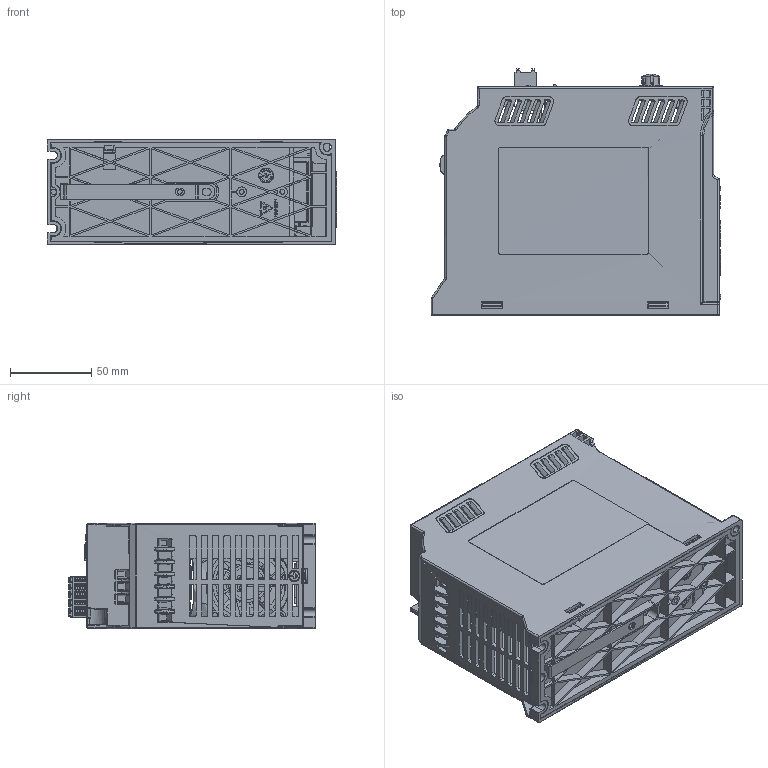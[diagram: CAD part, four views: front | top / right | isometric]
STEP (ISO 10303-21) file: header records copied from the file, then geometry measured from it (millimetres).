
FILE_DESCRIPTION (( 'STEP AP203' ), '1' );
FILE_NAME ('KC100-A-2V0.STEP', '2026-01-21T07:52:15', ( '' ), ( '' ), 'SwSTEP 2.0', 'SolidWorks 2022', '' );
FILE_SCHEMA (( 'CONFIG_CONTROL_DESIGN' ));
Products named in the file (1): KC100-A-2V0
Bounding box: 177.99 x 151.05 x 65 mm (x, y, z)
Surface area: 206966 mm2 (no closed solid volume)
Topology: 0 solids, 410 shells, 3782 faces, 14146 edges, 10729 vertices
Faces by surface type: plane 2403, cylinder 802, bspline 446, torus 60, cone 44, sphere 27
Full cylindrical faces by diameter (mm): 6 x1
Entity records: 206150 total; most frequent: CARTESIAN_POINT 113939, ORIENTED_EDGE 22889, EDGE_CURVE 14096, B_SPLINE_CURVE_WITH_KNOTS 12097, VERTEX_POINT 10727, DIRECTION 8533, EDGE_LOOP 4444, ADVANCED_FACE 3781
